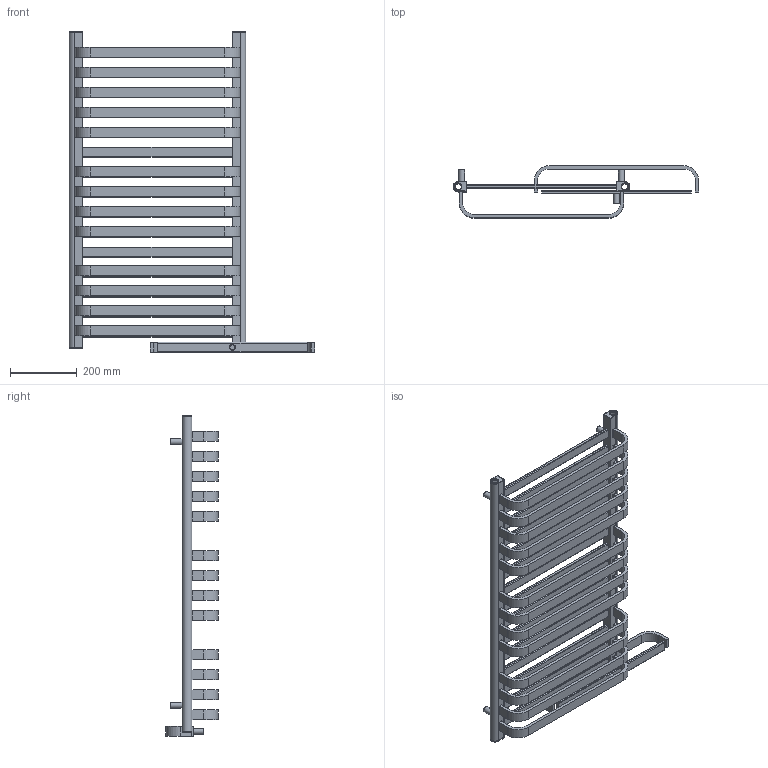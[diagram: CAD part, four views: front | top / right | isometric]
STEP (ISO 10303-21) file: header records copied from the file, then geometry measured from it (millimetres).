
FILE_DESCRIPTION( ( 'Unknown' ), '1' );
FILE_NAME( 'D:/RYSUNKI/RYSUNKI SOLID/SEJWAL/NOWE/2021/ARUBA/ARUBA-1/ARUBA-1.stp', 'Unknown', ( 'Unknown' ), ( 'Unknown' ), 'XStep 1.0', 'Unknown', ' ' );
FILE_SCHEMA( ( 'automotive_design' ) );
Length unit declared in the file: millimetre
Products named in the file (7): Assem1; Profil_glowny_lew; Profil_glowny_praw; Profil_10x30x1_2_zew; Dekiel_G1_2; MOCOWANIE; 10x30x470
Bounding box: 737 x 158 x 963 mm (x, y, z)
Volume: 5335740.4 mm3; surface area: 2167243.5 mm2
Topology: 44 solids, 44 shells, 679 faces, 1763 edges, 1177 vertices
Faces by surface type: plane 516, cylinder 153, torus 10
Full cylindrical faces by diameter (mm): 15 x5, 18 x5, 18.631 x5, 20 x5
Entity records: 5536 total; most frequent: CARTESIAN_POINT 942, ORIENTED_EDGE 884, DIRECTION 882, EDGE_CURVE 442, LINE 406, VECTOR 406, VERTEX_POINT 298, AXIS2_PLACEMENT_3D 238
